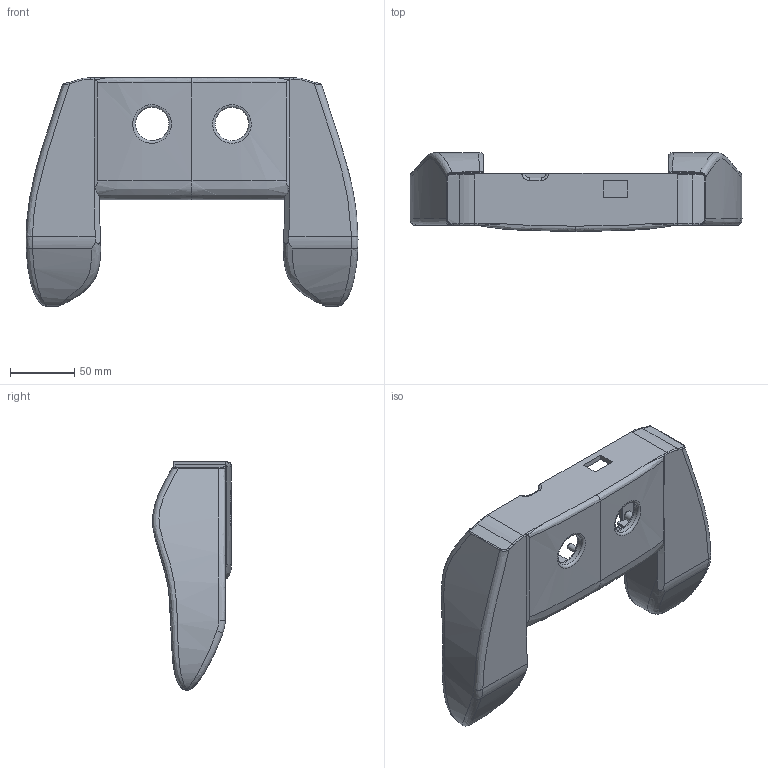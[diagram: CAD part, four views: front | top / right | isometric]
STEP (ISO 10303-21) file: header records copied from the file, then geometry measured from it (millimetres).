
FILE_DESCRIPTION(/* description */ ('STEP AP242','CAx-IF Rec.Pracs.---Representation and Presentation of Product Manufacturing Information (PMI)---4.0---2014-10-13','CAx-IF Rec.Pracs.---3D Tessellated Geometry---0.4---2014-09-14','2;1'),/* implementation_level */ '2;1');
FILE_NAME(/* name */ '6869def2e1723828ff5572a9',/* time_stamp */ '2025-07-06T02:26:58Z',/* author */ (''),/* organization */ (''),/* preprocessor_version */ 'ST-DEVELOPER v20',/* originating_system */ 'ONSHAPE BY PTC INC, 1.200',/* authorisation */ ' ');
FILE_SCHEMA (('AP242_MANAGED_MODEL_BASED_3D_ENGINEERING_MIM_LF { 1 0 10303 442 1 1 4 }'));
Length unit declared in the file: metre
Products named in the file (1): Part 1
Bounding box: 258.33 x 61.43 x 177.78 mm (x, y, z)
Volume: 809163.7 mm3; surface area: 122228.1 mm2
Topology: 1 solids, 1 shells, 181 faces, 475 edges, 309 vertices
Faces by surface type: plane 72, bspline 68, cylinder 41
Full cylindrical faces by diameter (mm): 3 x3, 4.6 x8, 6 x5, 7 x6, 9 x2, 13 x1, 26 x2
Entity records: 12283 total; most frequent: CARTESIAN_POINT 8596, ORIENTED_EDGE 848, DIRECTION 507, EDGE_CURVE 424, VERTEX_POINT 292, EDGE_LOOP 240, FACE_BOUND 240, B_SPLINE_CURVE_WITH_KNOTS 208
